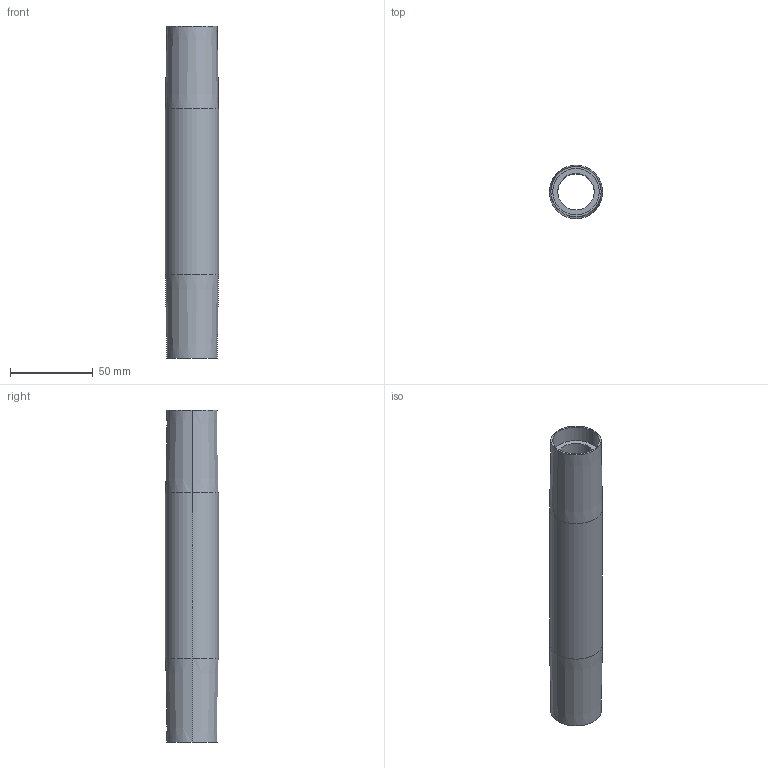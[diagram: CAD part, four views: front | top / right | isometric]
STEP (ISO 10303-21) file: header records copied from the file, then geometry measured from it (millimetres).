
FILE_DESCRIPTION (( 'STEP AP203' ), '1' );
FILE_NAME ('084.801.019.STEP', '2013-01-29T10:39:05', ( 'Alusic' ), ( 'Alusic' ), 'SwSTEP 2.0', 'SolidWorks 2011', '' );
FILE_SCHEMA (( 'CONFIG_CONTROL_DESIGN' ));
Length unit declared in the file: millimetre
Products named in the file (1): 084.801.019
Bounding box: 32 x 32 x 200 mm (x, y, z)
Volume: 75803.4 mm3; surface area: 34711 mm2
Topology: 1 solids, 1 shells, 16 faces, 32 edges, 20 vertices
Faces by surface type: cylinder 8, cone 4, plane 4
Entity records: 505 total; most frequent: DIRECTION 86, CARTESIAN_POINT 69, ORIENTED_EDGE 64, AXIS2_PLACEMENT_3D 37, EDGE_CURVE 32, EDGE_LOOP 20, CIRCLE 20, VERTEX_POINT 20
